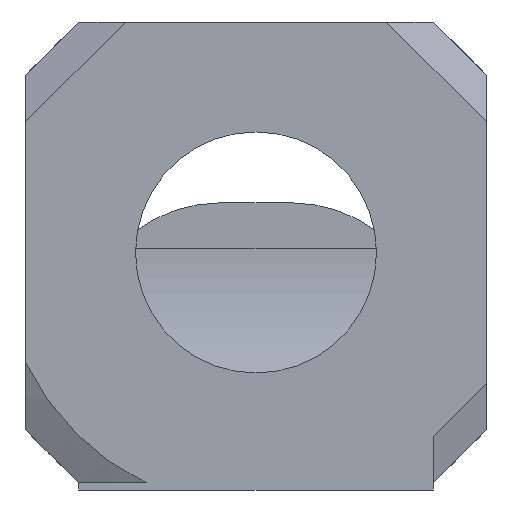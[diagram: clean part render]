
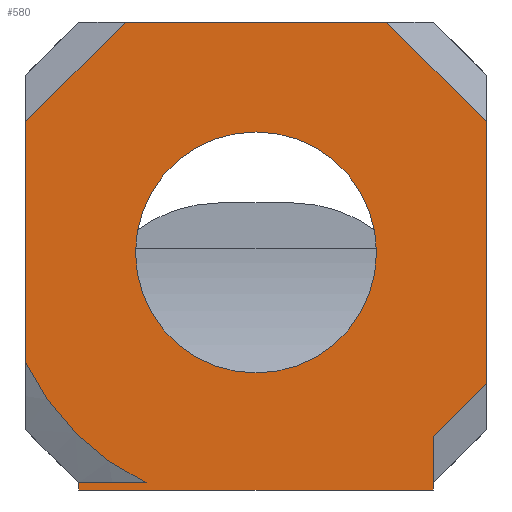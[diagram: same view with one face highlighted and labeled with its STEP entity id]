
A CAD part, front view. The second image highlights one B-rep face of the part: STEP entity #580.
In plain terms, the highlighted planar face has unit normal (0, -1, 0).
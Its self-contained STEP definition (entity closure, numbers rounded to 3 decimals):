
#20 = CARTESIAN_POINT ( 'NONE',  ( -5., 0., -6.7 ) ) ;
#23 = DIRECTION ( 'NONE',  ( -1., 0., 0. ) ) ;
#26 = VERTEX_POINT ( 'NONE', #445 ) ;
#34 = EDGE_CURVE ( 'NONE', #833, #716, #263, .T. ) ;
#36 = CARTESIAN_POINT ( 'NONE',  ( -6.5, 0., -3.097 ) ) ;
#52 = VERTEX_POINT ( 'NONE', #600 ) ;
#59 = VECTOR ( 'NONE', #1056, 1000. ) ;
#61 = VECTOR ( 'NONE', #810, 1000. ) ;
#68 = EDGE_LOOP ( 'NONE', ( #803, #542 ) ) ;
#86 = DIRECTION ( 'NONE',  ( -1., 0., 0. ) ) ;
#88 = CIRCLE ( 'NONE', #250, 7.2 ) ;
#95 = ORIENTED_EDGE ( 'NONE', *, *, #787, .T. ) ;
#97 = CARTESIAN_POINT ( 'NONE',  ( 0., 0., 0. ) ) ;
#99 = VECTOR ( 'NONE', #266, 1000. ) ;
#100 = ORIENTED_EDGE ( 'NONE', *, *, #34, .T. ) ;
#104 = CARTESIAN_POINT ( 'NONE',  ( 5., 0., -6.7 ) ) ;
#107 = EDGE_CURVE ( 'NONE', #469, #52, #462, .T. ) ;
#121 = LINE ( 'NONE', #20, #433 ) ;
#128 = EDGE_CURVE ( 'NONE', #26, #716, #121, .T. ) ;
#132 = CARTESIAN_POINT ( 'NONE',  ( 5.091, 0., 5.091 ) ) ;
#136 = CIRCLE ( 'NONE', #244, 3.4 ) ;
#146 = ORIENTED_EDGE ( 'NONE', *, *, #128, .F. ) ;
#160 = LINE ( 'NONE', #443, #616 ) ;
#165 = CARTESIAN_POINT ( 'NONE',  ( -5., 0., -6.7 ) ) ;
#178 = LINE ( 'NONE', #165, #922 ) ;
#182 = CARTESIAN_POINT ( 'NONE',  ( -5., 0., -6.5 ) ) ;
#190 = CARTESIAN_POINT ( 'NONE',  ( -3.097, 0., -6.5 ) ) ;
#203 = DIRECTION ( 'NONE',  ( 0., 0., 1. ) ) ;
#205 = ORIENTED_EDGE ( 'NONE', *, *, #624, .T. ) ;
#231 = ORIENTED_EDGE ( 'NONE', *, *, #107, .T. ) ;
#236 = CARTESIAN_POINT ( 'NONE',  ( 0., 0., 0. ) ) ;
#238 = FACE_BOUND ( 'NONE', #68, .T. ) ;
#244 = AXIS2_PLACEMENT_3D ( 'NONE', #823, #546, #483 ) ;
#245 = CARTESIAN_POINT ( 'NONE',  ( 3.682, 0., 6.5 ) ) ;
#250 = AXIS2_PLACEMENT_3D ( 'NONE', #872, #258, #362 ) ;
#257 = EDGE_CURVE ( 'NONE', #388, #361, #1091, .T. ) ;
#258 = DIRECTION ( 'NONE',  ( 0., -1., 0. ) ) ;
#262 = CIRCLE ( 'NONE', #870, 3.4 ) ;
#263 = LINE ( 'NONE', #532, #59 ) ;
#266 = DIRECTION ( 'NONE',  ( 0.707, 0., 0.707 ) ) ;
#276 = VECTOR ( 'NONE', #203, 1000. ) ;
#289 = CARTESIAN_POINT ( 'NONE',  ( 6.5, 0., 3.682 ) ) ;
#290 = DIRECTION ( 'NONE',  ( -0.707, 0., 0.707 ) ) ;
#295 = CARTESIAN_POINT ( 'NONE',  ( 6.5, 0., 0. ) ) ;
#316 = ORIENTED_EDGE ( 'NONE', *, *, #363, .T. ) ;
#320 = ORIENTED_EDGE ( 'NONE', *, *, #1073, .T. ) ;
#349 = EDGE_CURVE ( 'NONE', #595, #1029, #136, .T. ) ;
#361 = VERTEX_POINT ( 'NONE', #36 ) ;
#362 = DIRECTION ( 'NONE',  ( 0., 0., 1. ) ) ;
#363 = EDGE_CURVE ( 'NONE', #746, #457, #639, .T. ) ;
#373 = VECTOR ( 'NONE', #290, 1000. ) ;
#388 = VERTEX_POINT ( 'NONE', #391 ) ;
#391 = CARTESIAN_POINT ( 'NONE',  ( -6.5, 0., 3.682 ) ) ;
#401 = ORIENTED_EDGE ( 'NONE', *, *, #257, .T. ) ;
#422 = EDGE_LOOP ( 'NONE', ( #95, #320, #401, #1116, #100, #146, #647, #231, #205, #824, #316 ) ) ;
#433 = VECTOR ( 'NONE', #900, 1000. ) ;
#443 = CARTESIAN_POINT ( 'NONE',  ( -5.091, 0., 5.091 ) ) ;
#444 = LINE ( 'NONE', #535, #99 ) ;
#445 = CARTESIAN_POINT ( 'NONE',  ( -5., 0., -6.7 ) ) ;
#457 = VERTEX_POINT ( 'NONE', #245 ) ;
#462 = LINE ( 'NONE', #104, #276 ) ;
#469 = VERTEX_POINT ( 'NONE', #575 ) ;
#483 = DIRECTION ( 'NONE',  ( 0., 0., -1. ) ) ;
#526 = DIRECTION ( 'NONE',  ( 0., -1., 0. ) ) ;
#532 = CARTESIAN_POINT ( 'NONE',  ( -5., 0., -6.5 ) ) ;
#535 = CARTESIAN_POINT ( 'NONE',  ( 5.091, 0., -5.091 ) ) ;
#542 = ORIENTED_EDGE ( 'NONE', *, *, #349, .F. ) ;
#543 = CARTESIAN_POINT ( 'NONE',  ( 6.5, 0., -3.682 ) ) ;
#546 = DIRECTION ( 'NONE',  ( 0., -1., 0. ) ) ;
#553 = LINE ( 'NONE', #904, #976 ) ;
#575 = CARTESIAN_POINT ( 'NONE',  ( 5., 0., -6.7 ) ) ;
#578 = VERTEX_POINT ( 'NONE', #1028 ) ;
#580 = ADVANCED_FACE ( 'NONE', ( #238, #594 ), #582, .T. ) ;
#582 = PLANE ( 'NONE',  #1087 ) ;
#594 = FACE_OUTER_BOUND ( 'NONE', #422, .T. ) ;
#595 = VERTEX_POINT ( 'NONE', #1131 ) ;
#600 = CARTESIAN_POINT ( 'NONE',  ( 5., 0., -5.182 ) ) ;
#607 = DIRECTION ( 'NONE',  ( 0., 0., -1. ) ) ;
#616 = VECTOR ( 'NONE', #789, 1000. ) ;
#618 = EDGE_CURVE ( 'NONE', #469, #26, #178, .T. ) ;
#624 = EDGE_CURVE ( 'NONE', #52, #1114, #444, .T. ) ;
#639 = LINE ( 'NONE', #132, #373 ) ;
#647 = ORIENTED_EDGE ( 'NONE', *, *, #618, .F. ) ;
#651 = DIRECTION ( 'NONE',  ( 0., 0., -1. ) ) ;
#666 = DIRECTION ( 'NONE',  ( 0., 0., -1. ) ) ;
#673 = DIRECTION ( 'NONE',  ( 0., -1., 0. ) ) ;
#716 = VERTEX_POINT ( 'NONE', #182 ) ;
#730 = LINE ( 'NONE', #295, #61 ) ;
#745 = EDGE_CURVE ( 'NONE', #1114, #746, #730, .T. ) ;
#746 = VERTEX_POINT ( 'NONE', #289 ) ;
#771 = CARTESIAN_POINT ( 'NONE',  ( 0., 0., 3.4 ) ) ;
#787 = EDGE_CURVE ( 'NONE', #457, #578, #553, .T. ) ;
#789 = DIRECTION ( 'NONE',  ( -0.707, 0., -0.707 ) ) ;
#803 = ORIENTED_EDGE ( 'NONE', *, *, #851, .F. ) ;
#809 = VECTOR ( 'NONE', #651, 1000. ) ;
#810 = DIRECTION ( 'NONE',  ( 0., 0., 1. ) ) ;
#823 = CARTESIAN_POINT ( 'NONE',  ( 0., 0., 0. ) ) ;
#824 = ORIENTED_EDGE ( 'NONE', *, *, #745, .T. ) ;
#833 = VERTEX_POINT ( 'NONE', #190 ) ;
#851 = EDGE_CURVE ( 'NONE', #1029, #595, #262, .T. ) ;
#870 = AXIS2_PLACEMENT_3D ( 'NONE', #236, #673, #666 ) ;
#872 = CARTESIAN_POINT ( 'NONE',  ( 0., 0., 0. ) ) ;
#900 = DIRECTION ( 'NONE',  ( 0., 0., 1. ) ) ;
#904 = CARTESIAN_POINT ( 'NONE',  ( 0., 0., 6.5 ) ) ;
#922 = VECTOR ( 'NONE', #86, 1000. ) ;
#976 = VECTOR ( 'NONE', #23, 1000. ) ;
#998 = CARTESIAN_POINT ( 'NONE',  ( -6.5, 0., 0. ) ) ;
#1028 = CARTESIAN_POINT ( 'NONE',  ( -3.682, 0., 6.5 ) ) ;
#1029 = VERTEX_POINT ( 'NONE', #771 ) ;
#1036 = EDGE_CURVE ( 'NONE', #361, #833, #88, .T. ) ;
#1056 = DIRECTION ( 'NONE',  ( -1., 0., 0. ) ) ;
#1073 = EDGE_CURVE ( 'NONE', #578, #388, #160, .T. ) ;
#1087 = AXIS2_PLACEMENT_3D ( 'NONE', #97, #526, #607 ) ;
#1091 = LINE ( 'NONE', #998, #809 ) ;
#1114 = VERTEX_POINT ( 'NONE', #543 ) ;
#1116 = ORIENTED_EDGE ( 'NONE', *, *, #1036, .T. ) ;
#1131 = CARTESIAN_POINT ( 'NONE',  ( 0., 0., -3.4 ) ) ;
